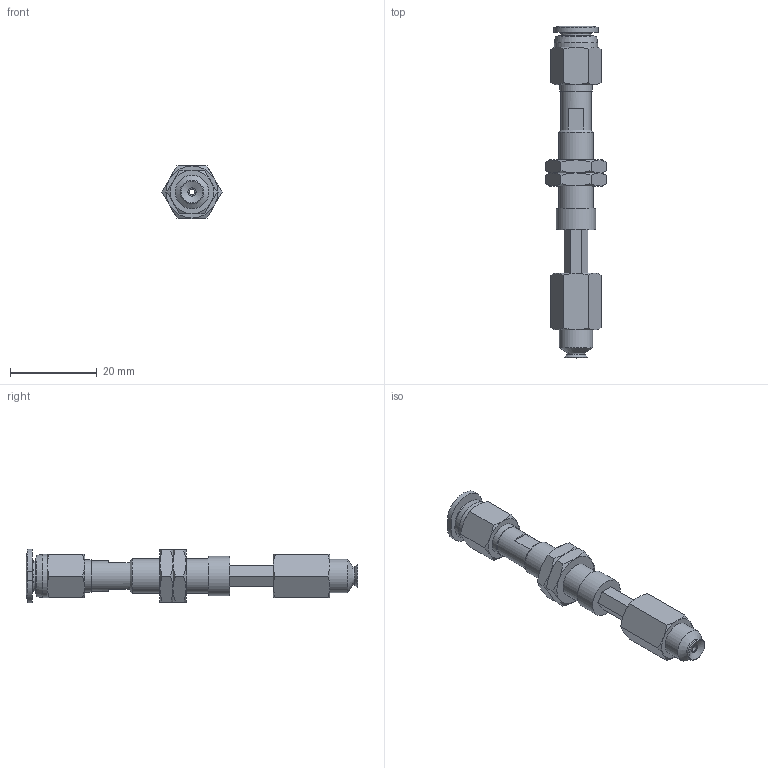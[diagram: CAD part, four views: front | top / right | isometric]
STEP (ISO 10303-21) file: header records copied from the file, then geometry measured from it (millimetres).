
FILE_DESCRIPTION(('STEP AP203'),'1');
FILE_NAME('-O.stp','2025-08-27T02:48:55',(' '),(' '),'Spatial InterOp 3D',' ',' ');
FILE_SCHEMA(('CONFIG_CONTROL_DESIGN'));
Length unit declared in the file: millimetre
Products named in the file (7): BNABPFTH-5A-10-※-O; ADAPTER; NAPATH-10A-10--M; Nut-5A-10-h; NAPFTH-5A-10-FBODY; BPFG-5A-※; PC-C_06-M5
Assembly tree (7 placements, depth 2):
  BNABPFTH-5A-10-※-O
    ADAPTER
    NAPATH-10A-10--M
    Nut-5A-10-h  x2
    NAPFTH-5A-10-FBODY
    BPFG-5A-※
    PC-C_06-M5
Bounding box: 13.86 x 76.48 x 12.4 mm (x, y, z)
Volume: 3369.4 mm3; surface area: 5056.6 mm2
Topology: 6 solids, 9 shells, 173 faces, 366 edges, 222 vertices
Faces by surface type: plane 69, cone 62, cylinder 23, torus 11, bspline 5, revolution 3
Full cylindrical faces by diameter (mm): 1.4 x1, 2 x2, 4 x4, 4.134 x1, 5 x1, 6 x2, 7 x2, 7.188 x2, 7.4 x1, 7.7 x1, 8 x1, 8.2 x1, 9 x1, 10 x1
Entity records: 4495 total; most frequent: CARTESIAN_POINT 1268, DIRECTION 593, ORIENTED_EDGE 520, EDGE_CURVE 262, AXIS2_PLACEMENT_3D 257, EDGE_LOOP 220, VERTEX_POINT 184, FACE_OUTER_BOUND 122
